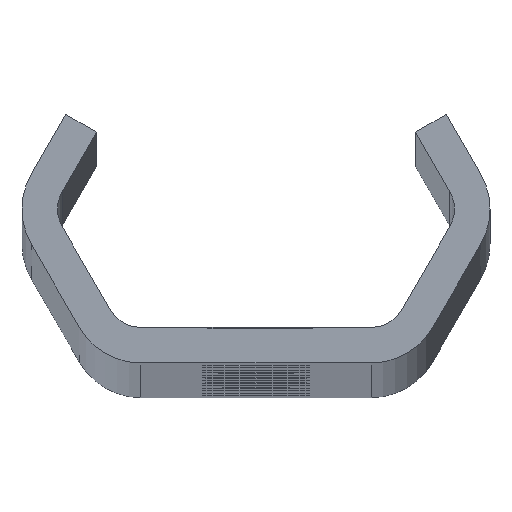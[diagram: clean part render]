
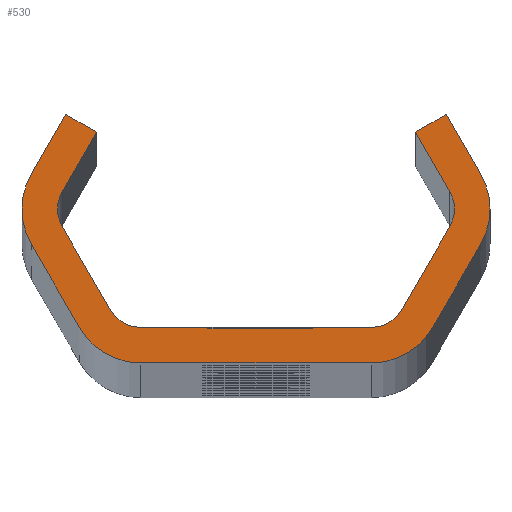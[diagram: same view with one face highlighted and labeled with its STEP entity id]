
A CAD part, top view. The second image highlights one B-rep face of the part: STEP entity #530.
In plain terms, the highlighted planar face has unit normal (0, 0, 1).
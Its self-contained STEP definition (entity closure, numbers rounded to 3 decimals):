
#530=ADVANCED_FACE('NONE',(#1456),#1457,.F.);
#1456=FACE_OUTER_BOUND('',#4619,.T.);
#1457=PLANE('',#4620);
#4619=EDGE_LOOP('',(#9449,#9450,#9451,#9452,#9453,#9454,#9455,#9456,#9457,#9458,#9459,#9460,#9461,#9462,#9463,#9464,#9465,#9466,#9467,#9468,#9469,#9470,#9471,#9472,#9473,#9474,#9475,#9476));
#4620=AXIS2_PLACEMENT_3D('',#9477,#9478,#9479);
#9449=ORIENTED_EDGE('',*,*,#12650,.F.);
#9450=ORIENTED_EDGE('',*,*,#12651,.T.);
#9451=ORIENTED_EDGE('',*,*,#12371,.T.);
#9452=ORIENTED_EDGE('',*,*,#12652,.T.);
#9453=ORIENTED_EDGE('',*,*,#12605,.T.);
#9454=ORIENTED_EDGE('',*,*,#12653,.T.);
#9455=ORIENTED_EDGE('',*,*,#12118,.T.);
#9456=ORIENTED_EDGE('',*,*,#12608,.T.);
#9457=ORIENTED_EDGE('',*,*,#12614,.T.);
#9458=ORIENTED_EDGE('',*,*,#12618,.T.);
#9459=ORIENTED_EDGE('',*,*,#12654,.T.);
#9460=ORIENTED_EDGE('',*,*,#12345,.T.);
#9461=ORIENTED_EDGE('',*,*,#12620,.T.);
#9462=ORIENTED_EDGE('',*,*,#12655,.T.);
#9463=ORIENTED_EDGE('',*,*,#12624,.T.);
#9464=ORIENTED_EDGE('',*,*,#12656,.T.);
#9465=ORIENTED_EDGE('',*,*,#12352,.T.);
#9466=ORIENTED_EDGE('',*,*,#12657,.T.);
#9467=ORIENTED_EDGE('',*,*,#12123,.T.);
#9468=ORIENTED_EDGE('',*,*,#12355,.T.);
#9469=ORIENTED_EDGE('',*,*,#12361,.T.);
#9470=ORIENTED_EDGE('',*,*,#12364,.T.);
#9471=ORIENTED_EDGE('',*,*,#12342,.T.);
#9472=ORIENTED_EDGE('',*,*,#12658,.T.);
#9473=ORIENTED_EDGE('',*,*,#12366,.T.);
#9474=ORIENTED_EDGE('',*,*,#12659,.T.);
#9475=ORIENTED_EDGE('',*,*,#12374,.T.);
#9476=ORIENTED_EDGE('',*,*,#12660,.T.);
#9477=CARTESIAN_POINT('',(0.0,0.0,1680.0));
#9478=DIRECTION('',(0.0,0.0,-1.0));
#9479=DIRECTION('',(0.0,-1.0,0.0));
#12118=EDGE_CURVE('NONE',#13509,#13513,#13515,.T.);
#12123=EDGE_CURVE('NONE',#13518,#13522,#13524,.T.);
#12342=EDGE_CURVE('NONE',#13918,#13916,#13919,.T.);
#12345=EDGE_CURVE('NONE',#13922,#13923,#13924,.T.);
#12352=EDGE_CURVE('NONE',#13936,#13934,#13937,.T.);
#12355=EDGE_CURVE('NONE',#13522,#13940,#13941,.T.);
#12361=EDGE_CURVE('NONE',#13940,#13948,#13950,.T.);
#12364=EDGE_CURVE('NONE',#13948,#13918,#13953,.T.);
#12366=EDGE_CURVE('NONE',#13955,#13956,#13957,.T.);
#12371=EDGE_CURVE('NONE',#13964,#13965,#13966,.T.);
#12374=EDGE_CURVE('NONE',#13971,#13969,#13972,.T.);
#12605=EDGE_CURVE('NONE',#14400,#14398,#14401,.T.);
#12608=EDGE_CURVE('NONE',#13513,#14404,#14405,.T.);
#12614=EDGE_CURVE('NONE',#14404,#14412,#14414,.T.);
#12618=EDGE_CURVE('NONE',#14412,#14418,#14420,.T.);
#12620=EDGE_CURVE('NONE',#13923,#14422,#14423,.T.);
#12624=EDGE_CURVE('NONE',#14428,#14429,#14430,.T.);
#12650=EDGE_CURVE('NONE',#14458,#14459,#14460,.T.);
#12651=EDGE_CURVE('NONE',#14458,#13964,#14461,.T.);
#12652=EDGE_CURVE('NONE',#13965,#14400,#14462,.T.);
#12653=EDGE_CURVE('NONE',#14398,#13509,#14463,.T.);
#12654=EDGE_CURVE('NONE',#14418,#13922,#14464,.T.);
#12655=EDGE_CURVE('NONE',#14422,#14428,#14465,.T.);
#12656=EDGE_CURVE('NONE',#14429,#13936,#14466,.T.);
#12657=EDGE_CURVE('NONE',#13934,#13518,#14467,.T.);
#12658=EDGE_CURVE('NONE',#13916,#13955,#14468,.T.);
#12659=EDGE_CURVE('NONE',#13956,#13971,#14469,.T.);
#12660=EDGE_CURVE('NONE',#13969,#14459,#14470,.T.);
#13509=VERTEX_POINT('',#15572);
#13513=VERTEX_POINT('NONE',#15577);
#13515=CIRCLE('',#15580,3.0);
#13518=VERTEX_POINT('',#15583);
#13522=VERTEX_POINT('NONE',#15588);
#13524=CIRCLE('',#15591,6.0);
#13916=VERTEX_POINT('NONE',#17949);
#13918=VERTEX_POINT('NONE',#17952);
#13919=CIRCLE('',#17953,3.0);
#13922=VERTEX_POINT('NONE',#17957);
#13923=VERTEX_POINT('NONE',#17958);
#13924=CIRCLE('',#17959,6.0);
#13934=VERTEX_POINT('NONE',#17972);
#13936=VERTEX_POINT('NONE',#17975);
#13937=LINE('',#17976,#17977);
#13940=VERTEX_POINT('NONE',#17981);
#13941=LINE('',#17982,#17983);
#13948=VERTEX_POINT('NONE',#17993);
#13950=LINE('',#17996,#17997);
#13953=LINE('',#18001,#18002);
#13955=VERTEX_POINT('NONE',#18004);
#13956=VERTEX_POINT('NONE',#18005);
#13957=LINE('',#18006,#18007);
#13964=VERTEX_POINT('NONE',#18017);
#13965=VERTEX_POINT('NONE',#18018);
#13966=LINE('',#18019,#18020);
#13969=VERTEX_POINT('NONE',#18024);
#13971=VERTEX_POINT('NONE',#18027);
#13972=LINE('',#18028,#18029);
#14398=VERTEX_POINT('NONE',#19607);
#14400=VERTEX_POINT('NONE',#19610);
#14401=LINE('',#19611,#19612);
#14404=VERTEX_POINT('NONE',#19616);
#14405=LINE('',#19617,#19618);
#14412=VERTEX_POINT('NONE',#19628);
#14414=LINE('',#19631,#19632);
#14418=VERTEX_POINT('NONE',#19637);
#14420=LINE('',#19640,#19641);
#14422=VERTEX_POINT('NONE',#19643);
#14423=LINE('',#19644,#19645);
#14428=VERTEX_POINT('NONE',#19652);
#14429=VERTEX_POINT('NONE',#19653);
#14430=LINE('',#19654,#19655);
#14458=VERTEX_POINT('NONE',#19686);
#14459=VERTEX_POINT('NONE',#19687);
#14460=LINE('',#19688,#19689);
#14461=LINE('',#19690,#19691);
#14462=CIRCLE('',#19692,3.0);
#14463=CIRCLE('',#19693,3.0);
#14464=CIRCLE('',#19694,6.0);
#14465=CIRCLE('',#19695,6.0);
#14466=CIRCLE('',#19696,6.0);
#14467=CIRCLE('',#19697,6.0);
#14468=CIRCLE('',#19698,3.0);
#14469=CIRCLE('',#19699,3.0);
#14470=LINE('',#19700,#19701);
#15572=CARTESIAN_POINT('',(-16.764,0.,1680.0));
#15577=CARTESIAN_POINT('',(-16.362,1.5,1680.0));
#15580=AXIS2_PLACEMENT_3D('',#23371,#23372,#23373);
#15583=CARTESIAN_POINT('',(19.764,0.,1680.0));
#15588=CARTESIAN_POINT('',(18.96,3.,1680.0));
#15591=AXIS2_PLACEMENT_3D('',#23379,#23380,#23381);
#17949=CARTESIAN_POINT('',(16.764,0.,1680.0));
#17952=CARTESIAN_POINT('',(16.362,1.5,1680.0));
#17953=AXIS2_PLACEMENT_3D('',#23598,#23599,#23600);
#17957=CARTESIAN_POINT('',(-19.764,0.,1680.0));
#17958=CARTESIAN_POINT('',(-18.96,-3.,1680.0));
#17959=AXIS2_PLACEMENT_3D('',#23602,#23603,#23604);
#17972=CARTESIAN_POINT('',(18.96,-3.,1680.0));
#17975=CARTESIAN_POINT('',(14.919,-10.,1680.0));
#17976=CARTESIAN_POINT('',(20.692,0.,1680.0));
#17977=VECTOR('',#23612,1000.0);
#17981=CARTESIAN_POINT('',(16.074,8.,1680.0));
#17982=CARTESIAN_POINT('',(16.074,8.,1680.0));
#17983=VECTOR('',#23614,1000.0);
#17993=CARTESIAN_POINT('',(13.475,6.5,1680.0));
#17996=CARTESIAN_POINT('',(13.475,6.5,1680.0));
#17997=VECTOR('',#23619,1000.0);
#18001=CARTESIAN_POINT('',(17.228,0.,1680.0));
#18002=VECTOR('',#23621,1000.0);
#18004=CARTESIAN_POINT('',(16.362,-1.5,1680.0));
#18005=CARTESIAN_POINT('',(12.321,-8.5,1680.0));
#18006=CARTESIAN_POINT('',(11.455,-10.0,1680.0));
#18007=VECTOR('',#23622,1000.0);
#18017=CARTESIAN_POINT('',(-4.063,-10.0,1680.0));
#18018=CARTESIAN_POINT('',(-9.723,-10.0,1680.0));
#18019=CARTESIAN_POINT('',(-11.455,-10.0,1680.0));
#18020=VECTOR('',#23626,1000.0);
#18024=CARTESIAN_POINT('',(-3.458,-10.0,1680.0));
#18027=CARTESIAN_POINT('',(9.723,-10.0,1680.0));
#18028=CARTESIAN_POINT('',(-11.455,-10.0,1680.0));
#18029=VECTOR('',#23629,1000.0);
#19607=CARTESIAN_POINT('',(-16.362,-1.5,1680.0));
#19610=CARTESIAN_POINT('',(-12.321,-8.5,1680.0));
#19611=CARTESIAN_POINT('',(-17.228,0.,1680.0));
#19612=VECTOR('',#23878,1000.0);
#19616=CARTESIAN_POINT('',(-13.475,6.5,1680.0));
#19617=CARTESIAN_POINT('',(-13.475,6.5,1680.0));
#19618=VECTOR('',#23880,1000.0);
#19628=CARTESIAN_POINT('',(-16.074,8.,1680.0));
#19631=CARTESIAN_POINT('',(-13.475,6.5,1680.0));
#19632=VECTOR('',#23885,1000.0);
#19637=CARTESIAN_POINT('',(-18.96,3.,1680.0));
#19640=CARTESIAN_POINT('',(-16.074,8.,1680.0));
#19641=VECTOR('',#23888,1000.0);
#19643=CARTESIAN_POINT('',(-14.919,-10.,1680.0));
#19644=CARTESIAN_POINT('',(-20.692,0.,1680.0));
#19645=VECTOR('',#23889,1000.0);
#19652=CARTESIAN_POINT('',(-9.723,-13.0,1680.0));
#19653=CARTESIAN_POINT('',(9.723,-13.0,1680.0));
#19654=CARTESIAN_POINT('',(-13.187,-13.0,1680.0));
#19655=VECTOR('',#23892,1000.0);
#19686=CARTESIAN_POINT('',(-4.063,-10.1,1680.0));
#19687=CARTESIAN_POINT('',(-3.458,-10.1,1680.0));
#19688=CARTESIAN_POINT('',(0.0,-10.1,1680.0));
#19689=VECTOR('',#23959,1000.0);
#19690=CARTESIAN_POINT('',(-4.063,0.,1680.0));
#19691=VECTOR('',#23960,1000.0);
#19692=AXIS2_PLACEMENT_3D('',#23961,#23962,#23963);
#19693=AXIS2_PLACEMENT_3D('',#23964,#23965,#23966);
#19694=AXIS2_PLACEMENT_3D('',#23967,#23968,#23969);
#19695=AXIS2_PLACEMENT_3D('',#23970,#23971,#23972);
#19696=AXIS2_PLACEMENT_3D('',#23973,#23974,#23975);
#19697=AXIS2_PLACEMENT_3D('',#23976,#23977,#23978);
#19698=AXIS2_PLACEMENT_3D('',#23979,#23980,#23981);
#19699=AXIS2_PLACEMENT_3D('',#23982,#23983,#23984);
#19700=CARTESIAN_POINT('',(-3.458,0.,1680.0));
#19701=VECTOR('',#23985,1000.0);
#23371=CARTESIAN_POINT('',(-13.764,0.,1680.0));
#23372=DIRECTION('',(0.0,0.0,-1.0));
#23373=DIRECTION('',(-1.0,0.0,0.0));
#23379=CARTESIAN_POINT('',(13.764,0.,1680.0));
#23380=DIRECTION('',(0.0,0.0,1.0));
#23381=DIRECTION('',(-1.0,0.0,0.0));
#23598=CARTESIAN_POINT('',(13.764,0.,1680.0));
#23599=DIRECTION('',(0.0,0.0,-1.0));
#23600=DIRECTION('',(-1.0,0.0,0.0));
#23602=CARTESIAN_POINT('',(-13.764,0.,1680.0));
#23603=DIRECTION('',(0.0,0.0,1.0));
#23604=DIRECTION('',(-1.0,0.0,0.0));
#23612=DIRECTION('',(0.5,0.866,-0.0));
#23614=DIRECTION('',(-0.5,0.866,-0.0));
#23619=DIRECTION('',(-0.866,-0.5,-0.0));
#23621=DIRECTION('',(0.5,-0.866,-0.0));
#23622=DIRECTION('',(-0.5,-0.866,-0.0));
#23626=DIRECTION('',(-1.0,0.,-0.0));
#23629=DIRECTION('',(-1.0,0.,-0.0));
#23878=DIRECTION('',(-0.5,0.866,-0.0));
#23880=DIRECTION('',(0.5,0.866,-0.0));
#23885=DIRECTION('',(-0.866,0.5,0.0));
#23888=DIRECTION('',(-0.5,-0.866,0.0));
#23889=DIRECTION('',(0.5,-0.866,0.0));
#23892=DIRECTION('',(1.0,0.0,0.0));
#23959=DIRECTION('',(1.0,0.0,0.0));
#23960=DIRECTION('',(0.,1.0,0.0));
#23961=CARTESIAN_POINT('',(-9.723,-7.0,1680.0));
#23962=DIRECTION('',(0.0,0.0,-1.0));
#23963=DIRECTION('',(-1.0,0.0,0.0));
#23964=CARTESIAN_POINT('',(-13.764,0.,1680.0));
#23965=DIRECTION('',(0.0,0.0,-1.0));
#23966=DIRECTION('',(-1.0,0.0,0.0));
#23967=CARTESIAN_POINT('',(-13.764,0.,1680.0));
#23968=DIRECTION('',(0.0,0.0,1.0));
#23969=DIRECTION('',(-1.0,0.0,0.0));
#23970=CARTESIAN_POINT('',(-9.723,-7.0,1680.0));
#23971=DIRECTION('',(0.0,0.0,1.0));
#23972=DIRECTION('',(-1.0,0.0,0.0));
#23973=CARTESIAN_POINT('',(9.723,-7.0,1680.0));
#23974=DIRECTION('',(0.0,0.0,1.0));
#23975=DIRECTION('',(-1.0,0.,0.0));
#23976=CARTESIAN_POINT('',(13.764,0.,1680.0));
#23977=DIRECTION('',(0.0,0.0,1.0));
#23978=DIRECTION('',(-1.0,0.0,0.0));
#23979=CARTESIAN_POINT('',(13.764,0.,1680.0));
#23980=DIRECTION('',(0.0,0.0,-1.0));
#23981=DIRECTION('',(-1.0,0.0,0.0));
#23982=CARTESIAN_POINT('',(9.723,-7.0,1680.0));
#23983=DIRECTION('',(0.0,0.0,-1.0));
#23984=DIRECTION('',(-1.0,0.0,0.0));
#23985=DIRECTION('',(0.,-1.0,0.0));
